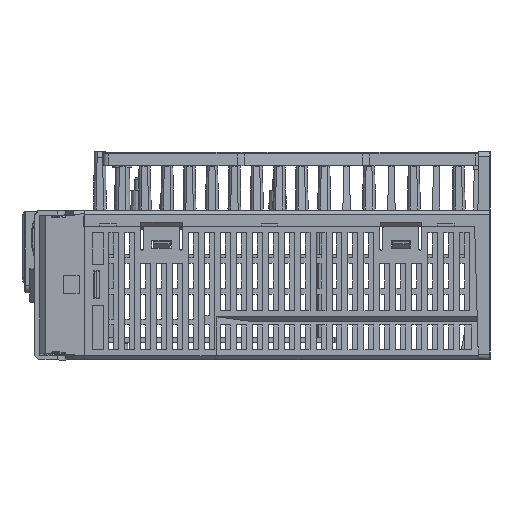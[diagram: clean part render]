
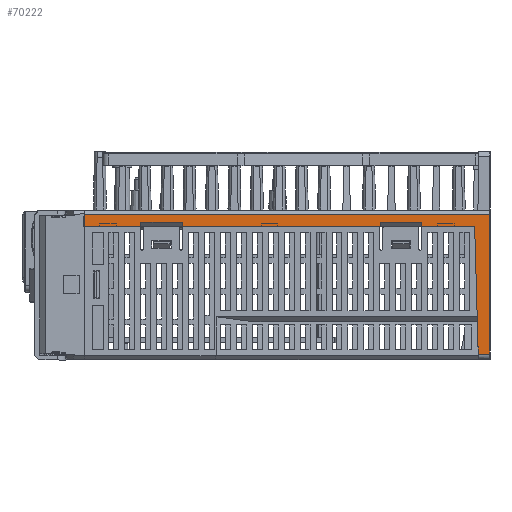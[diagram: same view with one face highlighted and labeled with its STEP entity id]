
A CAD part, left-side view. The second image highlights one B-rep face of the part: STEP entity #70222.
In plain terms, the highlighted planar face has unit normal (-1, 0, 0).
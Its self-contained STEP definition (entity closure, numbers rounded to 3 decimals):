
#67833 = VERTEX_POINT ( 'NONE', #145604 ) ;
#67900 = EDGE_CURVE ( 'NONE', #68040, #67927, #145676, .T. ) ;
#67915 = EDGE_CURVE ( 'NONE', #67954, #67936, #145663, .T. ) ;
#67923 = VERTEX_POINT ( 'NONE', #145658 ) ;
#67927 = VERTEX_POINT ( 'NONE', #145714 ) ;
#67933 = EDGE_CURVE ( 'NONE', #67923, #67960, #145713, .T. ) ;
#67936 = VERTEX_POINT ( 'NONE', #145710 ) ;
#67941 = VERTEX_POINT ( 'NONE', #145700 ) ;
#67948 = EDGE_CURVE ( 'NONE', #67941, #67833, #145701, .T. ) ;
#67954 = VERTEX_POINT ( 'NONE', #145746 ) ;
#67960 = VERTEX_POINT ( 'NONE', #145743 ) ;
#68040 = VERTEX_POINT ( 'NONE', #145797 ) ;
#69605 = EDGE_CURVE ( 'NONE', #67927, #67923, #146827, .T. ) ;
#69626 = EDGE_CURVE ( 'NONE', #69637, #69638, #146872, .T. ) ;
#69637 = VERTEX_POINT ( 'NONE', #146853 ) ;
#69638 = VERTEX_POINT ( 'NONE', #146852 ) ;
#69650 = EDGE_CURVE ( 'NONE', #67936, #67941, #146861, .T. ) ;
#69668 = EDGE_CURVE ( 'NONE', #67833, #68040, #146824, .T. ) ;
#69680 = EDGE_CURVE ( 'NONE', #69638, #67954, #146900, .T. ) ;
#69695 = EDGE_CURVE ( 'NONE', #67960, #69724, #146889, .T. ) ;
#69724 = VERTEX_POINT ( 'NONE', #146858 ) ;
#69790 = VERTEX_POINT ( 'NONE', #146953 ) ;
#69800 = EDGE_CURVE ( 'NONE', #69724, #69790, #146954, .T. ) ;
#69976 = ORIENTED_EDGE ( 'NONE', *, *, #69650, .T. ) ;
#70191 = ORIENTED_EDGE ( 'NONE', *, *, #69695, .T. ) ;
#70193 = EDGE_CURVE ( 'NONE', #70246, #69790, #147269, .T. ) ;
#70195 = ORIENTED_EDGE ( 'NONE', *, *, #70215, .T. ) ;
#70197 = ORIENTED_EDGE ( 'NONE', *, *, #70193, .F. ) ;
#70199 = EDGE_CURVE ( 'NONE', #70260, #70246, #147263, .T. ) ;
#70201 = ORIENTED_EDGE ( 'NONE', *, *, #70199, .F. ) ;
#70203 = ORIENTED_EDGE ( 'NONE', *, *, #69626, .T. ) ;
#70205 = ORIENTED_EDGE ( 'NONE', *, *, #67915, .T. ) ;
#70208 = EDGE_LOOP ( 'NONE', ( #70238, #70191, #70225, #70197, #70201, #70195, #70203, #70250, #70205, #69976, #70339, #70346, #70349, #70354 ) ) ;
#70215 = EDGE_CURVE ( 'NONE', #70260, #69637, #147319, .T. ) ;
#70222 = ADVANCED_FACE ( 'NONE', ( #147317 ), #147304, .T. ) ;
#70225 = ORIENTED_EDGE ( 'NONE', *, *, #69800, .T. ) ;
#70238 = ORIENTED_EDGE ( 'NONE', *, *, #67933, .T. ) ;
#70246 = VERTEX_POINT ( 'NONE', #147347 ) ;
#70250 = ORIENTED_EDGE ( 'NONE', *, *, #69680, .T. ) ;
#70260 = VERTEX_POINT ( 'NONE', #147351 ) ;
#70339 = ORIENTED_EDGE ( 'NONE', *, *, #67948, .T. ) ;
#70346 = ORIENTED_EDGE ( 'NONE', *, *, #69668, .T. ) ;
#70349 = ORIENTED_EDGE ( 'NONE', *, *, #67900, .T. ) ;
#70354 = ORIENTED_EDGE ( 'NONE', *, *, #69605, .T. ) ;
#145604 = CARTESIAN_POINT ( 'NONE',  ( -89.85, 36.75, -4. ) ) ;
#145658 = CARTESIAN_POINT ( 'NONE',  ( -89.85, -49.65, -2.5 ) ) ;
#145660 = DIRECTION ( 'NONE',  ( 0., 0., 1. ) ) ;
#145661 = VECTOR ( 'NONE', #145660, 1000. ) ;
#145662 = CARTESIAN_POINT ( 'NONE',  ( -89.85, 51.75, -9.3 ) ) ;
#145663 = LINE ( 'NONE', #145662, #145661 ) ;
#145671 = DIRECTION ( 'NONE',  ( 0., 0., 1. ) ) ;
#145672 = VECTOR ( 'NONE', #145671, 1000. ) ;
#145675 = CARTESIAN_POINT ( 'NONE',  ( -89.85, -34.65, -9.3 ) ) ;
#145676 = LINE ( 'NONE', #145675, #145672 ) ;
#145693 = DIRECTION ( 'NONE',  ( 0., 0., -1. ) ) ;
#145694 = VECTOR ( 'NONE', #145693, 1000. ) ;
#145700 = CARTESIAN_POINT ( 'NONE',  ( -89.85, 36.75, -2.5 ) ) ;
#145701 = LINE ( 'NONE', #145711, #145694 ) ;
#145702 = DIRECTION ( 'NONE',  ( 0., 0., -1. ) ) ;
#145703 = VECTOR ( 'NONE', #145702, 1000. ) ;
#145704 = CARTESIAN_POINT ( 'NONE',  ( -89.85, -49.65, -9.3 ) ) ;
#145710 = CARTESIAN_POINT ( 'NONE',  ( -89.85, 51.75, -2.5 ) ) ;
#145711 = CARTESIAN_POINT ( 'NONE',  ( -89.85, 36.75, -9.3 ) ) ;
#145713 = LINE ( 'NONE', #145704, #145703 ) ;
#145714 = CARTESIAN_POINT ( 'NONE',  ( -89.85, -34.65, -2.5 ) ) ;
#145743 = CARTESIAN_POINT ( 'NONE',  ( -89.85, -49.65, -4. ) ) ;
#145746 = CARTESIAN_POINT ( 'NONE',  ( -89.85, 51.75, -4. ) ) ;
#145797 = CARTESIAN_POINT ( 'NONE',  ( -89.85, -34.65, -4. ) ) ;
#146819 = DIRECTION ( 'NONE',  ( 0., -1., 0. ) ) ;
#146820 = VECTOR ( 'NONE', #146819, 1000. ) ;
#146821 = CARTESIAN_POINT ( 'NONE',  ( -89.85, 0., -2.5 ) ) ;
#146824 = LINE ( 'NONE', #146848, #146851 ) ;
#146827 = LINE ( 'NONE', #146821, #146820 ) ;
#146847 = DIRECTION ( 'NONE',  ( 0., -1., 0. ) ) ;
#146848 = CARTESIAN_POINT ( 'NONE',  ( -89.85, 0., -4. ) ) ;
#146851 = VECTOR ( 'NONE', #146847, 1000. ) ;
#146852 = CARTESIAN_POINT ( 'NONE',  ( -89.85, 72.35, -4. ) ) ;
#146853 = CARTESIAN_POINT ( 'NONE',  ( -89.85, 72.271, 0.5 ) ) ;
#146858 = CARTESIAN_POINT ( 'NONE',  ( -89.85, -68.809, -4. ) ) ;
#146860 = CARTESIAN_POINT ( 'NONE',  ( -89.85, 0., -2.5 ) ) ;
#146861 = LINE ( 'NONE', #146860, #146902 ) ;
#146868 = DIRECTION ( 'NONE',  ( 0., 0.017, -1. ) ) ;
#146869 = VECTOR ( 'NONE', #146868, 1000. ) ;
#146871 = CARTESIAN_POINT ( 'NONE',  ( -89.85, 72.271, 0.5 ) ) ;
#146872 = LINE ( 'NONE', #146871, #146869 ) ;
#146886 = DIRECTION ( 'NONE',  ( 0., -1., 0. ) ) ;
#146887 = VECTOR ( 'NONE', #146886, 1000. ) ;
#146888 = CARTESIAN_POINT ( 'NONE',  ( -89.85, 0., -4. ) ) ;
#146889 = LINE ( 'NONE', #146888, #146887 ) ;
#146897 = DIRECTION ( 'NONE',  ( 0., -1., 0. ) ) ;
#146898 = VECTOR ( 'NONE', #146897, 1000. ) ;
#146899 = CARTESIAN_POINT ( 'NONE',  ( -89.85, 0., -4. ) ) ;
#146900 = LINE ( 'NONE', #146899, #146898 ) ;
#146901 = DIRECTION ( 'NONE',  ( 0., -1., 0. ) ) ;
#146902 = VECTOR ( 'NONE', #146901, 1000. ) ;
#146953 = CARTESIAN_POINT ( 'NONE',  ( -89.85, -70.094, -50. ) ) ;
#146954 = LINE ( 'NONE', #146975, #146974 ) ;
#146973 = DIRECTION ( 'NONE',  ( 0., -0.028, -1. ) ) ;
#146974 = VECTOR ( 'NONE', #146973, 1000. ) ;
#146975 = CARTESIAN_POINT ( 'NONE',  ( -89.85, -68.809, -4. ) ) ;
#147263 = LINE ( 'NONE', #147267, #147266 ) ;
#147264 = DIRECTION ( 'NONE',  ( 0., 1., 0. ) ) ;
#147265 = CARTESIAN_POINT ( 'NONE',  ( -89.85, 0., -50. ) ) ;
#147266 = VECTOR ( 'NONE', #147313, 1000. ) ;
#147267 = CARTESIAN_POINT ( 'NONE',  ( -89.85, -74.35, -2. ) ) ;
#147269 = LINE ( 'NONE', #147265, #147316 ) ;
#147293 = DIRECTION ( 'NONE',  ( 0., 0., 1. ) ) ;
#147294 = DIRECTION ( 'NONE',  ( -1., 0., 0. ) ) ;
#147299 = CARTESIAN_POINT ( 'NONE',  ( -89.85, 0., -2. ) ) ;
#147302 = DIRECTION ( 'NONE',  ( 0., 1., 0. ) ) ;
#147303 = VECTOR ( 'NONE', #147302, 1000. ) ;
#147304 = PLANE ( 'NONE',  #147310 ) ;
#147309 = CARTESIAN_POINT ( 'NONE',  ( -89.85, 0., 0.5 ) ) ;
#147310 = AXIS2_PLACEMENT_3D ( 'NONE', #147299, #147294, #147293 ) ;
#147313 = DIRECTION ( 'NONE',  ( 0., 0., -1. ) ) ;
#147316 = VECTOR ( 'NONE', #147264, 1000. ) ;
#147317 = FACE_OUTER_BOUND ( 'NONE', #70208, .T. ) ;
#147319 = LINE ( 'NONE', #147309, #147303 ) ;
#147347 = CARTESIAN_POINT ( 'NONE',  ( -89.85, -74.35, -50. ) ) ;
#147351 = CARTESIAN_POINT ( 'NONE',  ( -89.85, -74.35, 0.5 ) ) ;
